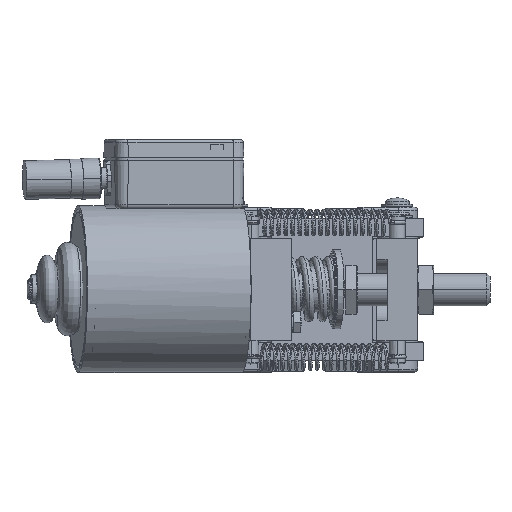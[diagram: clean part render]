
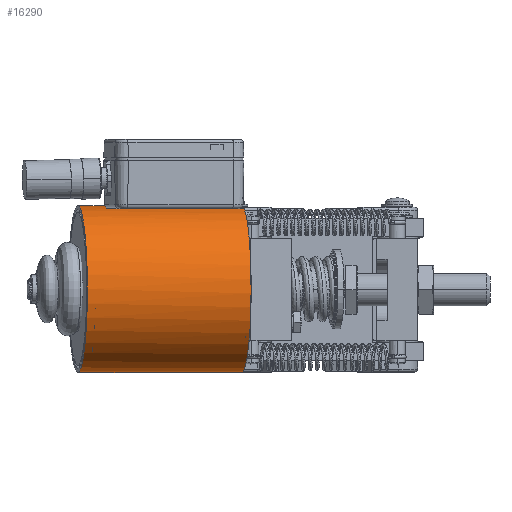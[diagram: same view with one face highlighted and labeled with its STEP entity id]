
A CAD part, front view. The second image highlights one B-rep face of the part: STEP entity #16290.
In plain terms, the highlighted cylindrical face has radius 41 mm (diameter 82 mm), a partial arc.
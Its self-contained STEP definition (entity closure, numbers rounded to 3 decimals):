
#15464=CARTESIAN_POINT('',(69.,0.,0.));
#15465=DIRECTION('',(1.,0.,0.));
#15466=DIRECTION('',(0.,0.963,-0.268));
#15467=AXIS2_PLACEMENT_3D('',#15464,#15465,#15466);
#15488=DIRECTION('',(-1.,0.,0.));
#15489=VECTOR('',#15488,68.);
#15490=CARTESIAN_POINT('',(69.,39.5,-10.989));
#15491=LINE('',#15490,#15489);
#15495=DIRECTION('',(1.,0.,0.));
#15496=VECTOR('',#15495,81.);
#15497=CARTESIAN_POINT('',(1.,-41.,0.));
#15498=LINE('',#15497,#15496);
#15510=CARTESIAN_POINT('',(1.,0.,0.));
#15511=DIRECTION('',(1.,0.,0.));
#15512=DIRECTION('',(0.,-1.,0.));
#15513=AXIS2_PLACEMENT_3D('',#15510,#15511,#15512);
#15605=DIRECTION('',(1.,0.,0.));
#15606=VECTOR('',#15605,13.);
#15607=CARTESIAN_POINT('',(69.,41.,0.));
#15608=LINE('',#15607,#15606);
#15620=CARTESIAN_POINT('',(82.,0.,0.));
#15621=DIRECTION('',(-1.,0.,0.));
#15622=DIRECTION('',(0.,1.,0.));
#15623=AXIS2_PLACEMENT_3D('',#15620,#15621,#15622);
#16016=CARTESIAN_POINT('',(1.,39.5,-10.989));
#16018=VERTEX_POINT('',#16016);
#16019=CARTESIAN_POINT('',(1.,-41.,0.));
#16020=VERTEX_POINT('',#16019);
#16049=CARTESIAN_POINT('',(69.,39.5,-10.989));
#16050=VERTEX_POINT('',#16049);
#16067=CARTESIAN_POINT('',(69.,41.,0.));
#16068=VERTEX_POINT('',#16067);
#16069=CARTESIAN_POINT('',(82.,-41.,0.));
#16070=VERTEX_POINT('',#16069);
#16071=CARTESIAN_POINT('',(82.,41.,0.));
#16072=VERTEX_POINT('',#16071);
#16273=CARTESIAN_POINT('',(-4.1,0.,0.));
#16274=DIRECTION('',(1.,0.,0.));
#16275=DIRECTION('',(0.,-1.,0.));
#16276=AXIS2_PLACEMENT_3D('',#16273,#16274,#16275);
#16277=CYLINDRICAL_SURFACE('',#16276,41.);
#16278=ORIENTED_EDGE('',*,*,#16174,.T.);
#16280=ORIENTED_EDGE('',*,*,#16279,.F.);
#16282=ORIENTED_EDGE('',*,*,#16281,.T.);
#16284=ORIENTED_EDGE('',*,*,#16283,.F.);
#16286=ORIENTED_EDGE('',*,*,#16285,.F.);
#16287=ORIENTED_EDGE('',*,*,#16264,.F.);
#16288=EDGE_LOOP('',(#16278,#16280,#16282,#16284,#16286,#16287));
#16289=FACE_OUTER_BOUND('',#16288,.F.);
#16290=ADVANCED_FACE('',(#16289),#16277,.T.);
#15468=CIRCLE('',#15467,41.);
#15514=CIRCLE('',#15513,41.);
#15624=CIRCLE('',#15623,41.);
#16174=EDGE_CURVE('',#16050,#16018,#15491,.T.);
#16264=EDGE_CURVE('',#16050,#16068,#15468,.T.);
#16279=EDGE_CURVE('',#16020,#16018,#15514,.T.);
#16281=EDGE_CURVE('',#16020,#16070,#15498,.T.);
#16283=EDGE_CURVE('',#16072,#16070,#15624,.T.);
#16285=EDGE_CURVE('',#16068,#16072,#15608,.T.);
